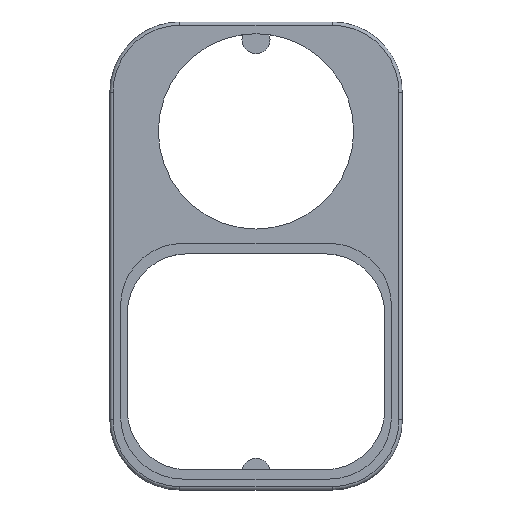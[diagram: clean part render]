
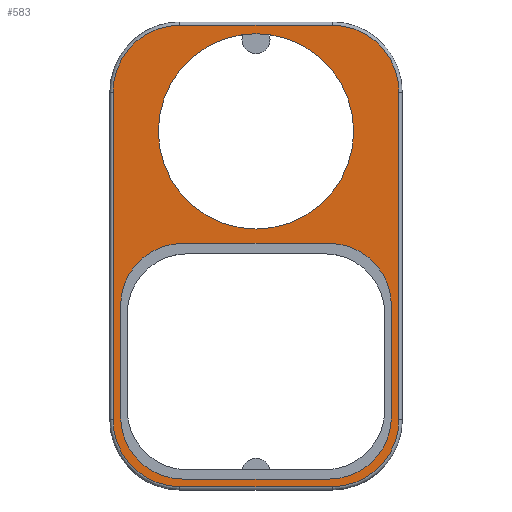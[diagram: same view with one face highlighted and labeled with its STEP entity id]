
A CAD part, top view. The second image highlights one B-rep face of the part: STEP entity #583.
In plain terms, the highlighted planar face has unit normal (0, 0, 1).
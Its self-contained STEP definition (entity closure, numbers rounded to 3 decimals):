
#129 = VERTEX_POINT('',#130);
#130 = CARTESIAN_POINT('',(0.55,12.,13.5));
#139 = VERTEX_POINT('',#140);
#140 = CARTESIAN_POINT('',(12.,0.55,13.5));
#147 = EDGE_CURVE('',#129,#139,#148,.T.);
#148 = CIRCLE('',#149,11.45);
#149 = AXIS2_PLACEMENT_3D('',#150,#151,#152);
#150 = CARTESIAN_POINT('',(12.,12.,13.5));
#151 = DIRECTION('',(0.,0.,1.));
#152 = DIRECTION('',(-1.,0.,0.));
#317 = EDGE_CURVE('',#139,#318,#320,.T.);
#318 = VERTEX_POINT('',#319);
#319 = CARTESIAN_POINT('',(38.,0.55,13.5));
#320 = LINE('',#321,#322);
#321 = CARTESIAN_POINT('',(12.,0.55,13.5));
#322 = VECTOR('',#323,1.);
#323 = DIRECTION('',(1.,0.,0.));
#563 = VERTEX_POINT('',#564);
#564 = CARTESIAN_POINT('',(0.55,68.,13.5));
#571 = EDGE_CURVE('',#563,#129,#572,.T.);
#572 = LINE('',#573,#574);
#573 = CARTESIAN_POINT('',(0.55,68.,13.5));
#574 = VECTOR('',#575,1.);
#575 = DIRECTION('',(-0.,-1.,-0.));
#583 = ADVANCED_FACE('',(#584,#630,#700),#711,.T.);
#584 = FACE_BOUND('',#585,.T.);
#585 = EDGE_LOOP('',(#586,#587,#588,#597,#605,#614,#622,#629));
#586 = ORIENTED_EDGE('',*,*,#147,.T.);
#587 = ORIENTED_EDGE('',*,*,#317,.T.);
#588 = ORIENTED_EDGE('',*,*,#589,.T.);
#589 = EDGE_CURVE('',#318,#590,#592,.T.);
#590 = VERTEX_POINT('',#591);
#591 = CARTESIAN_POINT('',(49.45,12.,13.5));
#592 = CIRCLE('',#593,11.45);
#593 = AXIS2_PLACEMENT_3D('',#594,#595,#596);
#594 = CARTESIAN_POINT('',(38.,12.,13.5));
#595 = DIRECTION('',(-0.,0.,1.));
#596 = DIRECTION('',(0.,-1.,0.));
#597 = ORIENTED_EDGE('',*,*,#598,.T.);
#598 = EDGE_CURVE('',#590,#599,#601,.T.);
#599 = VERTEX_POINT('',#600);
#600 = CARTESIAN_POINT('',(49.45,68.,13.5));
#601 = LINE('',#602,#603);
#602 = CARTESIAN_POINT('',(49.45,12.,13.5));
#603 = VECTOR('',#604,1.);
#604 = DIRECTION('',(0.,1.,0.));
#605 = ORIENTED_EDGE('',*,*,#606,.T.);
#606 = EDGE_CURVE('',#599,#607,#609,.T.);
#607 = VERTEX_POINT('',#608);
#608 = CARTESIAN_POINT('',(38.,79.45,13.5));
#609 = CIRCLE('',#610,11.45);
#610 = AXIS2_PLACEMENT_3D('',#611,#612,#613);
#611 = CARTESIAN_POINT('',(38.,68.,13.5));
#612 = DIRECTION('',(0.,0.,1.));
#613 = DIRECTION('',(1.,0.,0.));
#614 = ORIENTED_EDGE('',*,*,#615,.T.);
#615 = EDGE_CURVE('',#607,#616,#618,.T.);
#616 = VERTEX_POINT('',#617);
#617 = CARTESIAN_POINT('',(12.,79.45,13.5));
#618 = LINE('',#619,#620);
#619 = CARTESIAN_POINT('',(38.,79.45,13.5));
#620 = VECTOR('',#621,1.);
#621 = DIRECTION('',(-1.,-0.,-0.));
#622 = ORIENTED_EDGE('',*,*,#623,.T.);
#623 = EDGE_CURVE('',#616,#563,#624,.T.);
#624 = CIRCLE('',#625,11.45);
#625 = AXIS2_PLACEMENT_3D('',#626,#627,#628);
#626 = CARTESIAN_POINT('',(12.,68.,13.5));
#627 = DIRECTION('',(0.,-0.,1.));
#628 = DIRECTION('',(0.,1.,0.));
#629 = ORIENTED_EDGE('',*,*,#571,.T.);
#630 = FACE_BOUND('',#631,.T.);
#631 = EDGE_LOOP('',(#632,#642,#651,#659,#668,#676,#685,#693));
#632 = ORIENTED_EDGE('',*,*,#633,.T.);
#633 = EDGE_CURVE('',#634,#636,#638,.T.);
#634 = VERTEX_POINT('',#635);
#635 = CARTESIAN_POINT('',(37.5,1.85,13.5));
#636 = VERTEX_POINT('',#637);
#637 = CARTESIAN_POINT('',(12.5,1.85,13.5));
#638 = LINE('',#639,#640);
#639 = CARTESIAN_POINT('',(18.75,1.85,13.5));
#640 = VECTOR('',#641,1.);
#641 = DIRECTION('',(-1.,0.,0.));
#642 = ORIENTED_EDGE('',*,*,#643,.T.);
#643 = EDGE_CURVE('',#636,#644,#646,.T.);
#644 = VERTEX_POINT('',#645);
#645 = CARTESIAN_POINT('',(1.85,12.5,13.5));
#646 = CIRCLE('',#647,10.65);
#647 = AXIS2_PLACEMENT_3D('',#648,#649,#650);
#648 = CARTESIAN_POINT('',(12.5,12.5,13.5));
#649 = DIRECTION('',(0.,0.,-1.));
#650 = DIRECTION('',(1.,0.,0.));
#651 = ORIENTED_EDGE('',*,*,#652,.T.);
#652 = EDGE_CURVE('',#644,#653,#655,.T.);
#653 = VERTEX_POINT('',#654);
#654 = CARTESIAN_POINT('',(1.85,31.5,13.5));
#655 = LINE('',#656,#657);
#656 = CARTESIAN_POINT('',(1.85,26.25,13.5));
#657 = VECTOR('',#658,1.);
#658 = DIRECTION('',(0.,1.,0.));
#659 = ORIENTED_EDGE('',*,*,#660,.T.);
#660 = EDGE_CURVE('',#653,#661,#663,.T.);
#661 = VERTEX_POINT('',#662);
#662 = CARTESIAN_POINT('',(12.5,42.15,13.5));
#663 = CIRCLE('',#664,10.65);
#664 = AXIS2_PLACEMENT_3D('',#665,#666,#667);
#665 = CARTESIAN_POINT('',(12.5,31.5,13.5));
#666 = DIRECTION('',(0.,0.,-1.));
#667 = DIRECTION('',(1.,0.,0.));
#668 = ORIENTED_EDGE('',*,*,#669,.F.);
#669 = EDGE_CURVE('',#670,#661,#672,.T.);
#670 = VERTEX_POINT('',#671);
#671 = CARTESIAN_POINT('',(37.5,42.15,13.5));
#672 = LINE('',#673,#674);
#673 = CARTESIAN_POINT('',(18.75,42.15,13.5));
#674 = VECTOR('',#675,1.);
#675 = DIRECTION('',(-1.,0.,0.));
#676 = ORIENTED_EDGE('',*,*,#677,.T.);
#677 = EDGE_CURVE('',#670,#678,#680,.T.);
#678 = VERTEX_POINT('',#679);
#679 = CARTESIAN_POINT('',(48.15,31.5,13.5));
#680 = CIRCLE('',#681,10.65);
#681 = AXIS2_PLACEMENT_3D('',#682,#683,#684);
#682 = CARTESIAN_POINT('',(37.5,31.5,13.5));
#683 = DIRECTION('',(0.,0.,-1.));
#684 = DIRECTION('',(1.,0.,0.));
#685 = ORIENTED_EDGE('',*,*,#686,.F.);
#686 = EDGE_CURVE('',#687,#678,#689,.T.);
#687 = VERTEX_POINT('',#688);
#688 = CARTESIAN_POINT('',(48.15,12.5,13.5));
#689 = LINE('',#690,#691);
#690 = CARTESIAN_POINT('',(48.15,26.25,13.5));
#691 = VECTOR('',#692,1.);
#692 = DIRECTION('',(0.,1.,0.));
#693 = ORIENTED_EDGE('',*,*,#694,.T.);
#694 = EDGE_CURVE('',#687,#634,#695,.T.);
#695 = CIRCLE('',#696,10.65);
#696 = AXIS2_PLACEMENT_3D('',#697,#698,#699);
#697 = CARTESIAN_POINT('',(37.5,12.5,13.5));
#698 = DIRECTION('',(0.,0.,-1.));
#699 = DIRECTION('',(1.,0.,0.));
#700 = FACE_BOUND('',#701,.T.);
#701 = EDGE_LOOP('',(#702));
#702 = ORIENTED_EDGE('',*,*,#703,.T.);
#703 = EDGE_CURVE('',#704,#704,#706,.T.);
#704 = VERTEX_POINT('',#705);
#705 = CARTESIAN_POINT('',(41.7,61.3,13.5));
#706 = CIRCLE('',#707,16.7);
#707 = AXIS2_PLACEMENT_3D('',#708,#709,#710);
#708 = CARTESIAN_POINT('',(25.,61.3,13.5));
#709 = DIRECTION('',(0.,0.,-1.));
#710 = DIRECTION('',(1.,0.,0.));
#711 = PLANE('',#712);
#712 = AXIS2_PLACEMENT_3D('',#713,#714,#715);
#713 = CARTESIAN_POINT('',(25.,40.,13.5));
#714 = DIRECTION('',(0.,0.,1.));
#715 = DIRECTION('',(1.,0.,0.));
